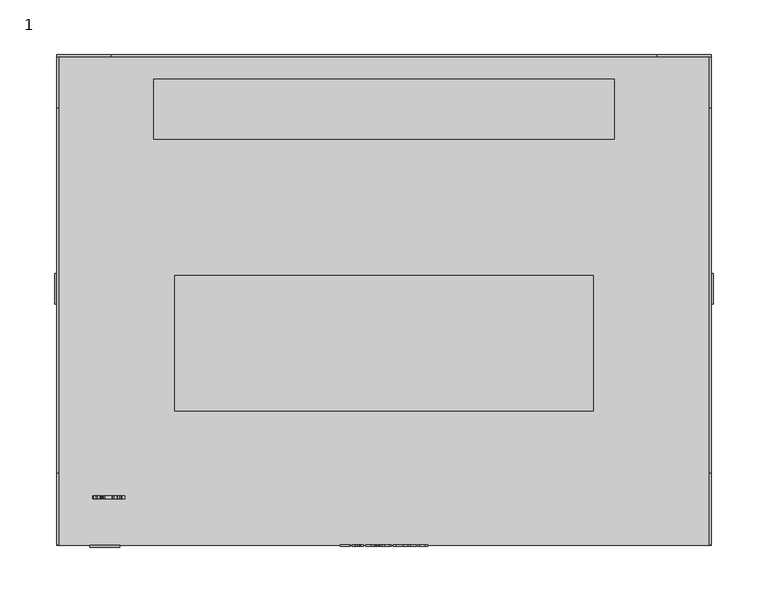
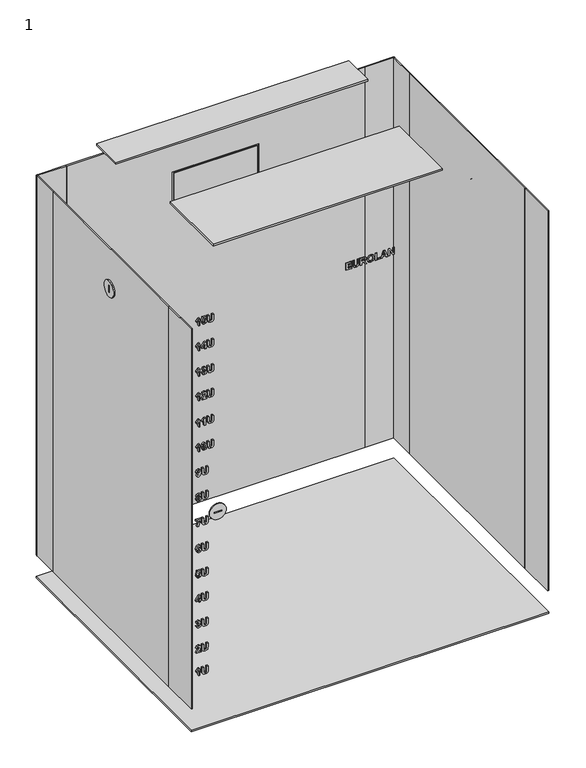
"""IFC4 building model written with IfcOpenShell, lengths in millimetres: proxy geometry, 1 : 15U 450мм металлическая дверь."""

from ifc_helpers import new_model, si_unit, point, frame, frame_2d, origin, origin_with_axes, place, context, project, spatial, polyline, circle_curve, trimmed, segment, composite_curve, outline, extrude, source, transform, mapped, element, save


def proxy_1_1176372e(model_context):
    return source(origin(), model_context, "Body", "SweptSolid", [
        extrude(outline(polyline([(728.0, -40.3245382), (728.0, -30.9964522), (730.1376864, -30.9964522), (730.1376864, -37.9925167), (733.2470483, -37.9925167), (733.2470483, -31.5794576), (735.3847347, -31.5794576), (735.3847347, -37.9925167), (738.1054264, -37.9925167), (738.1054264, -31.1907874), (740.2431128, -31.1907874), (740.2431128, -40.3245382), (728.0, -40.3245382)])), frame((0.0, -226.0, 0.0), z_axis=(0.0, 1.0, 0.0), x_axis=(0.0, 0.0, 1.0)), (0.0, 0.0, 1.0), 1.0),
        extrude(outline(polyline([(740.2431128, -29.053101), (733.7207402, -29.053101), (730.6174512, -28.8071456), (729.2601418, -28.1026808), (728.2095176, -26.6482039), (727.8056649, -23.9487675), (728.1761162, -21.5575346), (729.173602, -20.0954664), (730.7085458, -19.3454543), (733.8209443, -19.1420097), (740.2431128, -19.1420097), (740.2431128, -21.4740312), (733.4960402, -21.4740312), (731.4236383, -21.5924541), (730.3714958, -22.2923642), (729.9433512, -24.0216432), (730.3973059, -25.7979877), (731.5982363, -26.6208755), (733.6387551, -26.7210795), (740.2431128, -26.7210795), (740.2431128, -29.053101)])), frame((0.0, -226.0, 0.0), z_axis=(0.0, 1.0, 0.0), x_axis=(0.0, 0.0, 1.0)), (0.0, 0.0, 1.0), 1.0),
        extrude(outline(polyline([(728.0, -16.8099882), (728.0, -14.4779667), (733.0527132, -13.9435451), (732.9251808, -12.6120459), (732.4560437, -11.8164865), (730.7966039, -10.4242575), (728.0, -8.6509495), (728.0, -5.9272213), (730.3745323, -7.424209), (732.3512849, -8.7238252), (733.3715443, -9.9475291), (734.5071902, -7.6625732), (736.7936644, -6.8988969), (738.7339791, -7.4272455), (739.9121358, -8.8361752), (740.2431128, -11.6601074), (740.2431128, -16.8099882), (728.0, -16.8099882)]), holes=[polyline([(735.1903996, -14.4779667), (738.1054264, -14.4779667), (738.1054264, -12.4495939), (738.0659521, -10.5548264), (737.6150339, -9.5770778), (736.6782779, -9.2309184), (735.817434, -9.4935744), (735.3315962, -10.2223312), (735.1903996, -12.5558709), (735.1903996, -14.4779667)])]), frame((0.0, -226.0, 0.0), z_axis=(0.0, 1.0, 0.0), x_axis=(0.0, 0.0, 1.0)), (0.0, 0.0, 1.0), 1.0),
        extrude(outline(polyline([(734.0456442, -4.9555457), (729.4681411, -3.3735363), (727.8056649, 0.8896905), (729.4757323, 5.1225524), (734.106374, 6.7045618), (738.7628257, 5.1104065), (740.4374479, 0.8593256), (739.9546466, -1.7338337), (738.8539203, -3.2869964), (737.1792981, -4.4059416), (734.0456442, -4.9555457)]), holes=[polyline([(734.1306659, -2.6235242), (737.2612832, -1.6579215), (738.2997616, 0.886654), (737.2734292, 3.4190836), (734.1640672, 4.3725403), (730.9985302, 3.3932735), (729.9433512, 0.886654), (731.0061214, -1.6321114), (734.1306659, -2.6235242)])]), frame((0.0, -226.0, 0.0), z_axis=(0.0, 1.0, 0.0), x_axis=(0.0, 0.0, 1.0)), (0.0, 0.0, 1.0), 1.0),
        extrude(outline(polyline([(728.0, 8.647913), (728.0, 17.1986585), (730.1376864, 17.1986585), (730.1376864, 10.9799345), (740.2431128, 10.9799345), (740.2431128, 8.647913), (728.0, 8.647913)])), frame((0.0, -226.0, 0.0), z_axis=(0.0, 1.0, 0.0), x_axis=(0.0, 0.0, 1.0)), (0.0, 0.0, 1.0), 1.0),
        extrude(outline(polyline([(728.0, 29.2474361), (740.2431128, 24.7352175), (740.2431128, 22.2513717), (728.0, 17.7816638), (728.0, 20.2655096), (730.7206917, 21.2128934), (730.7206917, 25.837462), (728.0, 26.7969917), (728.0, 29.2474361)]), holes=[polyline([(732.8583781, 25.0904864), (732.8583781, 21.959869), (737.3280859, 23.51455), (732.8583781, 25.0904864)])]), frame((0.0, -226.0, 0.0), z_axis=(0.0, 1.0, 0.0), x_axis=(0.0, 0.0, 1.0)), (0.0, 0.0, 1.0), 1.0),
        extrude(outline(polyline([(728.0, 30.4134469), (728.0, 32.7454684), (736.1195644, 32.7454684), (728.0, 37.8042546), (728.0, 40.3245382), (740.2431128, 40.3245382), (740.2431128, 37.9925167), (732.002089, 37.9925167), (740.2431128, 32.8578184), (740.2431128, 30.4134469), (728.0, 30.4134469)])), frame((0.0, -226.0, 0.0), z_axis=(0.0, 1.0, 0.0), x_axis=(0.0, 0.0, 1.0)), (0.0, 0.0, 1.0), 1.0),
        extrude(outline(composite_curve([segment(trimmed(circle_curve(frame_2d((9.997621, 643.4611412)), 14.0), [point((-4.002379, 643.4611412))], [point((23.997621, 643.4611412))], False, "CARTESIAN"), True, "CONTINUOUS"), segment(trimmed(circle_curve(frame_2d((9.997621, 643.4611412)), 14.0), [point((23.997621, 643.4611412))], [point((-4.002379, 643.4611412))], False, "CARTESIAN"), True, "CONTINUOUS")], self_intersect=False), holes=[polyline([(11.0, 649.5), (9.0, 649.5), (9.0, 637.5), (11.0, 637.5), (11.0, 649.5)])]), frame((-302.0, 0.0, 0.0), z_axis=(1.0, 0.0, 0.0), x_axis=(0.0, 1.0, 0.0)), (0.0, 0.0, 1.0), 2.0),
        extrude(outline(composite_curve([segment(trimmed(circle_curve(frame_2d((9.997621, 643.4611412)), 14.0), [point((-4.002379, 643.4611412))], [point((23.997621, 643.4611412))], False, "CARTESIAN"), True, "CONTINUOUS"), segment(trimmed(circle_curve(frame_2d((9.997621, 643.4611412)), 14.0), [point((23.997621, 643.4611412))], [point((-4.002379, 643.4611412))], False, "CARTESIAN"), True, "CONTINUOUS")], self_intersect=False), holes=[polyline([(11.0, 649.5), (9.0, 649.5), (9.0, 637.5), (11.0, 637.5), (11.0, 649.5)])]), frame((300.0, 0.0, 0.0), z_axis=(1.0, 0.0, 0.0), x_axis=(0.0, 1.0, 0.0)), (0.0, 0.0, 1.0), 2.0),
        extrude(outline(composite_curve([segment(trimmed(circle_curve(frame_2d((376.0, -256.0)), 13.7647373), [point((376.0, -242.2352627))], [point((376.0, -269.7647373))], False, "CARTESIAN"), True, "CONTINUOUS"), segment(trimmed(circle_curve(frame_2d((376.0, -256.0)), 13.7647373), [point((376.0, -269.7647373))], [point((376.0, -242.2352627))], False, "CARTESIAN"), True, "CONTINUOUS")], self_intersect=False), holes=[polyline([(377.0, -250.0), (375.0, -250.0), (375.0, -262.0), (377.0, -262.0), (377.0, -250.0)])]), frame((0.0, -227.0, 0.0), z_axis=(0.0, 1.0, 0.0), x_axis=(0.0, 0.0, 1.0)), (0.0, 0.0, 1.0), 2.0),
        extrude(outline(polyline([(300.0, 225.0), (300.0, -225.0), (-300.0, -225.0), (-300.0, 225.0), (300.0, 225.0)])), origin_with_axes(), (0.0, 0.0, 1.0), 2.0),
        extrude(outline(polyline([(211.0, 202.5), (211.0, 147.5), (-211.0, 147.5), (-211.0, 202.5), (211.0, 202.5)])), frame((0.0, 0.0, 748.9795778), z_axis=(0.0, 0.0, 1.0), x_axis=(1.0, 0.0, 0.0)), (0.0, 0.0, 1.0), 3.0204222),
        extrude(outline(polyline([(192.0, 22.0), (192.0, -102.0), (-192.0, -102.0), (-192.0, 22.0), (192.0, 22.0)])), frame((0.0, 0.0, 748.9795778), z_axis=(0.0, 0.0, 1.0), x_axis=(1.0, 0.0, 0.0)), (0.0, 0.0, 1.0), 3.0204222),
        extrude(outline(polyline([(-69.5, 225.0), (69.5, 225.0), (69.5, 223.0), (-69.5, 223.0), (-69.5, 225.0)])), frame((0.0, 0.0, 589.0), z_axis=(0.0, 0.0, 1.0), x_axis=(1.0, 0.0, 0.0)), (0.0, 0.0, 1.0), 49.0),
        extrude(outline(polyline([(714.0, -250.0), (40.0, -250.0), (40.0, 250.0), (714.0, 250.0), (714.0, -250.0)]), holes=[polyline([(641.0, -72.5), (641.0, 72.5), (586.0, 72.5), (586.0, -72.5), (641.0, -72.5)])]), frame((0.0, 223.0, 0.0), z_axis=(0.0, 1.0, 0.0), x_axis=(0.0, 0.0, 1.0)), (0.0, 0.0, 1.0), 2.0),
        extrude(outline(polyline([(-300.0, 225.0), (-250.0, 225.0), (-250.0, 223.0), (-300.0, 223.0), (-300.0, 225.0)])), frame((0.0, 0.0, 40.0), z_axis=(0.0, 0.0, 1.0), x_axis=(1.0, 0.0, 0.0)), (0.0, 0.0, 1.0), 674.0),
        extrude(outline(polyline([(250.0, 225.0), (300.0, 225.0), (300.0, 223.0), (250.0, 223.0), (250.0, 225.0)])), frame((0.0, 0.0, 40.0), z_axis=(0.0, 0.0, 1.0), x_axis=(1.0, 0.0, 0.0)), (0.0, 0.0, 1.0), 674.0),
        extrude(outline(polyline([(-298.0, 175.8155315), (-298.0, -158.7095641), (-300.0, -158.7095641), (-300.0, 175.8155315), (-298.0, 175.8155315)])), frame((0.0, 0.0, 40.0), z_axis=(0.0, 0.0, 1.0), x_axis=(1.0, 0.0, 0.0)), (0.0, 0.0, 1.0), 674.0),
        extrude(outline(polyline([(-298.0, -158.7095641), (-298.0, -225.0), (-300.0, -225.0), (-300.0, -158.7095641), (-298.0, -158.7095641)])), frame((0.0, 0.0, 40.0), z_axis=(0.0, 0.0, 1.0), x_axis=(1.0, 0.0, 0.0)), (0.0, 0.0, 1.0), 674.0),
        extrude(outline(polyline([(-298.0, 225.0), (-298.0, 175.8155315), (-300.0, 175.8155315), (-300.0, 225.0), (-298.0, 225.0)])), frame((0.0, 0.0, 40.0), z_axis=(0.0, 0.0, 1.0), x_axis=(1.0, 0.0, 0.0)), (0.0, 0.0, 1.0), 674.0),
        extrude(outline(polyline([(300.0, 175.8155315), (300.0, -158.7095641), (298.0, -158.7095641), (298.0, 175.8155315), (300.0, 175.8155315)])), frame((0.0, 0.0, 40.0), z_axis=(0.0, 0.0, 1.0), x_axis=(1.0, 0.0, 0.0)), (0.0, 0.0, 1.0), 674.0),
        extrude(outline(polyline([(300.0, 225.0), (300.0, 175.8155315), (298.0, 175.8155315), (298.0, 225.0), (300.0, 225.0)])), frame((0.0, 0.0, 40.0), z_axis=(0.0, 0.0, 1.0), x_axis=(1.0, 0.0, 0.0)), (0.0, 0.0, 1.0), 674.0),
        extrude(outline(polyline([(300.0, -158.7095641), (300.0, -225.0), (298.0, -225.0), (298.0, -158.7095641), (300.0, -158.7095641)])), frame((0.0, 0.0, 40.0), z_axis=(0.0, 0.0, 1.0), x_axis=(1.0, 0.0, 0.0)), (0.0, 0.0, 1.0), 674.0),
        extrude(outline(polyline([(680.748317, -260.6030776), (692.9914298, -260.6030776), (692.9914298, -262.4614073), (691.0253049, -263.9037383), (689.8820678, -265.850126), (687.5500463, -265.850126), (689.4994705, -262.9350991), (680.748317, -262.9350991), (680.748317, -260.6030776)])), frame((0.0, -182.6777479, 0.0), z_axis=(0.0, 1.0, 0.0), x_axis=(0.0, 0.0, 1.0)), (0.0, 0.0, 1.0), 3.0),
        extrude(outline(polyline([(684.1947289, -257.1050454), (681.5408399, -255.8676772), (680.5539818, -253.194051), (682.1268817, -249.984485), (684.7473694, -249.1373053), (687.6122943, -250.1545282), (688.716057, -252.6323011), (688.2393287, -254.1353618), (690.4650731, -253.6647064), (690.4650731, -249.7203107), (692.7970946, -249.7203107), (692.7970946, -255.5503644), (685.9073072, -256.9107103), (685.606695, -254.8884104), (686.5783707, -253.1819051), (686.1077153, -251.9445369), (684.6957492, -251.4693268), (683.1911702, -251.9809748), (682.6916682, -253.2304889), (683.1623236, -254.3722077), (684.4406843, -254.967359), (684.1947289, -257.1050454)])), frame((0.0, -182.6777479, 0.0), z_axis=(0.0, 1.0, 0.0), x_axis=(0.0, 0.0, 1.0)), (0.0, 0.0, 1.0), 3.0),
        extrude(outline(polyline([(692.9914298, -247.3882892), (686.4690572, -247.3882892), (683.3657682, -247.1423338), (682.0084588, -246.437869), (680.9578345, -244.9833921), (680.5539818, -242.2839557), (680.9244332, -239.8927228), (681.9219189, -238.4306546), (683.4568627, -237.6806425), (686.5692612, -237.4771979), (692.9914298, -237.4771979), (692.9914298, -239.8092194), (686.2443572, -239.8092194), (684.1719553, -239.9276424), (683.1198128, -240.6275524), (682.6916682, -242.3568314), (683.1456229, -244.1331759), (684.3465532, -244.9560637), (686.387072, -245.0562677), (692.9914298, -245.0562677), (692.9914298, -247.3882892)])), frame((0.0, -182.6777479, 0.0), z_axis=(0.0, 1.0, 0.0), x_axis=(0.0, 0.0, 1.0)), (0.0, 0.0, 1.0), 3.0),
        extrude(outline(polyline([(636.0351924, -260.6030776), (648.2783052, -260.6030776), (648.2783052, -262.4614073), (646.3121803, -263.9037383), (645.1689432, -265.850126), (642.8369217, -265.850126), (644.7863459, -262.9350991), (636.0351924, -262.9350991), (636.0351924, -260.6030776)])), frame((0.0, -182.6777479, 0.0), z_axis=(0.0, 1.0, 0.0), x_axis=(0.0, 0.0, 1.0)), (0.0, 0.0, 1.0), 3.0),
        extrude(outline(polyline([(636.0351924, -252.8296727), (636.0351924, -250.4976512), (638.561549, -250.4976512), (638.561549, -248.9429702), (640.5049002, -248.9429702), (640.5049002, -250.4976512), (648.08397, -250.4976512), (648.08397, -252.5199511), (640.4957907, -257.4937157), (638.561549, -257.4937157), (638.561549, -252.8296727), (636.0351924, -252.8296727)]), holes=[polyline([(640.5049002, -252.8296727), (640.5049002, -255.4349779), (644.4826973, -252.8296727), (640.5049002, -252.8296727)])]), frame((0.0, -182.6777479, 0.0), z_axis=(0.0, 1.0, 0.0), x_axis=(0.0, 0.0, 1.0)), (0.0, 0.0, 1.0), 3.0),
        extrude(outline(polyline([(648.2783052, -247.3882892), (641.7559326, -247.3882892), (638.6526436, -247.1423338), (637.2953342, -246.437869), (636.2447099, -244.9833921), (635.8408572, -242.2839557), (636.2113086, -239.8927228), (637.2087943, -238.4306546), (638.7437381, -237.6806425), (641.8561366, -237.4771979), (648.2783052, -237.4771979), (648.2783052, -239.8092194), (641.5312326, -239.8092194), (639.4588307, -239.9276424), (638.4066882, -240.6275524), (637.9785436, -242.3568314), (638.4324983, -244.1331759), (639.6334286, -244.9560637), (641.6739474, -245.0562677), (648.2783052, -245.0562677), (648.2783052, -247.3882892)])), frame((0.0, -182.6777479, 0.0), z_axis=(0.0, 1.0, 0.0), x_axis=(0.0, 0.0, 1.0)), (0.0, 0.0, 1.0), 3.0),
        extrude(outline(polyline([(591.485825, -260.6030776), (603.7289378, -260.6030776), (603.7289378, -262.4614073), (601.762813, -263.9037383), (600.6195759, -265.850126), (598.2875544, -265.850126), (600.2369786, -262.9350991), (591.485825, -262.9350991), (591.485825, -260.6030776)])), frame((0.0, -182.6777479, 0.0), z_axis=(0.0, 1.0, 0.0), x_axis=(0.0, 0.0, 1.0)), (0.0, 0.0, 1.0), 3.0),
        extrude(outline(polyline([(594.9079451, -257.1050454), (592.2920122, -255.8919691), (591.2914899, -253.2578173), (592.4165081, -250.4566586), (595.1356816, -249.3316405), (597.0137484, -249.9662661), (598.0142706, -251.6606255), (600.5861745, -249.9146458), (602.6266933, -250.7284242), (603.7289378, -253.3458754), (603.3311581, -255.0690813), (602.2395413, -256.2684934), (600.3857664, -256.9107103), (600.0365705, -254.5786888), (601.19499, -254.1611719), (601.5912515, -253.3306929), (601.2496468, -252.5427247), (600.3341462, -252.2466673), (599.253157, -252.6429288), (598.8705597, -253.7922388), (596.9484639, -253.9956834), (597.1215436, -253.0695551), (596.6387423, -252.0720693), (595.3300167, -251.6636619), (593.9438607, -252.1100254), (593.4291763, -253.21227), (593.8785763, -254.2477118), (595.1781924, -254.7730239), (594.9079451, -257.1050454)])), frame((0.0, -182.6777479, 0.0), z_axis=(0.0, 1.0, 0.0), x_axis=(0.0, 0.0, 1.0)), (0.0, 0.0, 1.0), 3.0),
        extrude(outline(polyline([(603.7289378, -247.3882892), (597.2065653, -247.3882892), (594.1032762, -247.1423338), (592.7459669, -246.437869), (591.6953426, -244.9833921), (591.2914899, -242.2839557), (591.6619413, -239.8927228), (592.659427, -238.4306546), (594.1943708, -237.6806425), (597.3067693, -237.4771979), (603.7289378, -237.4771979), (603.7289378, -239.8092194), (596.9818653, -239.8092194), (594.9094634, -239.9276424), (593.8573209, -240.6275524), (593.4291763, -242.3568314), (593.883131, -244.1331759), (595.0840613, -244.9560637), (597.1245801, -245.0562677), (603.7289378, -245.0562677), (603.7289378, -247.3882892)])), frame((0.0, -182.6777479, 0.0), z_axis=(0.0, 1.0, 0.0), x_axis=(0.0, 0.0, 1.0)), (0.0, 0.0, 1.0), 3.0),
        extrude(outline(polyline([(547.6333267, -260.6030776), (559.8764395, -260.6030776), (559.8764395, -262.4614073), (557.9103146, -263.9037383), (556.7670775, -265.850126), (554.435056, -265.850126), (556.3844802, -262.9350991), (547.6333267, -262.9350991), (547.6333267, -260.6030776)])), frame((0.0, -182.6777479, 0.0), z_axis=(0.0, 1.0, 0.0), x_axis=(0.0, 0.0, 1.0)), (0.0, 0.0, 1.0), 3.0),
        extrude(outline(polyline([(549.9653481, -249.3316405), (550.6030103, -253.2395983), (551.9299548, -251.9080991), (553.4603439, -250.4581769), (554.9937695, -249.6018877), (556.5363045, -249.3316405), (558.918428, -250.3184985), (559.8764395, -253.0331173), (559.0216686, -255.6596779), (556.202291, -256.9107103), (555.989737, -254.5786888), (557.3333822, -254.1292888), (557.7387531, -253.0847375), (557.3273092, -252.0417045), (556.1476343, -251.6636619), (554.7447776, -252.1130619), (552.7892804, -253.9167348), (549.9213191, -256.3611063), (547.6333267, -257.1050454), (547.6333267, -249.3316405), (549.9653481, -249.3316405)])), frame((0.0, -182.6777479, 0.0), z_axis=(0.0, 1.0, 0.0), x_axis=(0.0, 0.0, 1.0)), (0.0, 0.0, 1.0), 3.0),
        extrude(outline(polyline([(559.8764395, -247.3882892), (553.3540669, -247.3882892), (550.2507779, -247.1423338), (548.8934685, -246.437869), (547.8428442, -244.9833921), (547.4389915, -242.2839557), (547.8094429, -239.8927228), (548.8069286, -238.4306546), (550.3418725, -237.6806425), (553.4542709, -237.4771979), (559.8764395, -237.4771979), (559.8764395, -239.8092194), (553.1293669, -239.8092194), (551.056965, -239.9276424), (550.0048225, -240.6275524), (549.5766779, -242.3568314), (550.0306326, -244.1331759), (551.2315629, -244.9560637), (553.2720817, -245.0562677), (559.8764395, -245.0562677), (559.8764395, -247.3882892)])), frame((0.0, -182.6777479, 0.0), z_axis=(0.0, 1.0, 0.0), x_axis=(0.0, 0.0, 1.0)), (0.0, 0.0, 1.0), 3.0),
        extrude(outline(polyline([(501.1786301, -260.6030776), (513.4217429, -260.6030776), (513.4217429, -262.4614073), (511.455618, -263.9037383), (510.3123809, -265.850126), (507.9803594, -265.850126), (509.9297836, -262.9350991), (501.1786301, -262.9350991), (501.1786301, -260.6030776)])), frame((0.0, -182.6777479, 0.0), z_axis=(0.0, 1.0, 0.0), x_axis=(0.0, 0.0, 1.0)), (0.0, 0.0, 1.0), 3.0),
        extrude(outline(polyline([(501.1786301, -251.2749917), (513.4217429, -251.2749917), (513.4217429, -253.1333213), (511.455618, -254.5756523), (510.3123809, -256.52204), (507.9803594, -256.52204), (509.9297836, -253.6070132), (501.1786301, -253.6070132), (501.1786301, -251.2749917)])), frame((0.0, -182.6777479, 0.0), z_axis=(0.0, 1.0, 0.0), x_axis=(0.0, 0.0, 1.0)), (0.0, 0.0, 1.0), 3.0),
        extrude(outline(polyline([(513.4217429, -247.3882892), (506.8993703, -247.3882892), (503.7960813, -247.1423338), (502.4387719, -246.437869), (501.3881476, -244.9833921), (500.9842949, -242.2839557), (501.3547463, -239.8927228), (502.352232, -238.4306546), (503.8871758, -237.6806425), (506.9995743, -237.4771979), (513.4217429, -237.4771979), (513.4217429, -239.8092194), (506.6746703, -239.8092194), (504.6022684, -239.9276424), (503.5501259, -240.6275524), (503.1219813, -242.3568314), (503.575936, -244.1331759), (504.7768663, -244.9560637), (506.8173851, -245.0562677), (513.4217429, -245.0562677), (513.4217429, -247.3882892)])), frame((0.0, -182.6777479, 0.0), z_axis=(0.0, 1.0, 0.0), x_axis=(0.0, 0.0, 1.0)), (0.0, 0.0, 1.0), 3.0),
        extrude(outline(polyline([(457.3261317, -260.6030776), (469.5692445, -260.6030776), (469.5692445, -262.4614073), (467.6031196, -263.9037383), (466.4598825, -265.850126), (464.127861, -265.850126), (466.0772852, -262.9350991), (457.3261317, -262.9350991), (457.3261317, -260.6030776)])), frame((0.0, -182.6777479, 0.0), z_axis=(0.0, 1.0, 0.0), x_axis=(0.0, 0.0, 1.0)), (0.0, 0.0, 1.0), 3.0),
        extrude(outline(polyline([(469.5692445, -253.2183429), (468.3242851, -255.9299252), (463.3717759, -257.1050454), (458.4982154, -256.034684), (457.1317966, -253.2183429), (458.3767559, -250.5067607), (463.347484, -249.3316405), (468.3060662, -250.5006877), (469.5692445, -253.2183429)]), holes=[polyline([(467.4315581, -253.2183429), (467.174975, -252.4455572), (466.1531974, -251.8853254), (463.347484, -251.6636619), (460.4476396, -251.9126538), (459.526066, -252.4410024), (459.2694829, -253.2183429), (459.5230295, -253.9911287), (460.5402524, -254.5513604), (463.347484, -254.7730239), (466.2534014, -254.524032), (467.174975, -253.9956834), (467.4315581, -253.2183429)])]), frame((0.0, -182.6777479, 0.0), z_axis=(0.0, 1.0, 0.0), x_axis=(0.0, 0.0, 1.0)), (0.0, 0.0, 1.0), 3.0),
        extrude(outline(polyline([(469.5692445, -247.3882892), (463.0468719, -247.3882892), (459.9435829, -247.1423338), (458.5862735, -246.437869), (457.5356492, -244.9833921), (457.1317966, -242.2839557), (457.5022479, -239.8927228), (458.4997336, -238.4306546), (460.0346775, -237.6806425), (463.1470759, -237.4771979), (469.5692445, -237.4771979), (469.5692445, -239.8092194), (462.8221719, -239.8092194), (460.74977, -239.9276424), (459.6976275, -240.6275524), (459.2694829, -242.3568314), (459.7234376, -244.1331759), (460.924368, -244.9560637), (462.9648868, -245.0562677), (469.5692445, -245.0562677), (469.5692445, -247.3882892)])), frame((0.0, -182.6777479, 0.0), z_axis=(0.0, 1.0, 0.0), x_axis=(0.0, 0.0, 1.0)), (0.0, 0.0, 1.0), 3.0),
        extrude(outline(polyline([(416.2414631, -266.2387962), (413.8062011, -265.1547706), (412.9924228, -262.9381356), (414.4696734, -259.8469925), (419.2870589, -258.6597264), (423.9981674, -259.7953723), (425.4298707, -262.7012897), (424.3169985, -265.3809888), (421.3852709, -266.4331314), (418.550711, -265.4083172), (417.4621306, -262.971537), (418.476317, -260.8065222), (415.7753625, -261.4290019), (415.1301091, -262.6071586), (415.4641226, -263.4922944), (416.490455, -263.9067747), (416.2414631, -266.2387962)]), holes=[polyline([(421.3306142, -260.9917479), (420.0385892, -261.4365931), (419.599817, -262.5312464), (420.0568082, -263.6517099), (421.4885115, -264.1011099), (422.8701127, -263.6881477), (423.2921843, -262.6496694), (422.7774999, -261.4927681), (421.3306142, -260.9917479)])]), frame((0.0, -182.6777479, 0.0), z_axis=(0.0, 1.0, 0.0), x_axis=(0.0, 0.0, 1.0)), (0.0, 0.0, 1.0), 3.0),
        extrude(outline(polyline([(425.4298707, -256.7163752), (418.9074981, -256.7163752), (415.8042091, -256.4704198), (414.4468997, -255.7659549), (413.3962754, -254.311478), (412.9924228, -251.6120417), (413.3628741, -249.2208087), (414.3603599, -247.7587405), (415.8953037, -247.0087284), (419.0077021, -246.8052838), (425.4298707, -246.8052838), (425.4298707, -249.1373053), (418.6827981, -249.1373053), (416.6103962, -249.2557283), (415.5582537, -249.9556384), (415.1301091, -251.6849173), (415.5840638, -253.4612618), (416.7849942, -254.2841496), (418.825513, -254.3843537), (425.4298707, -254.3843537), (425.4298707, -256.7163752)])), frame((0.0, -182.6777479, 0.0), z_axis=(0.0, 1.0, 0.0), x_axis=(0.0, 0.0, 1.0)), (0.0, 0.0, 1.0), 3.0),
        extrude(outline(polyline([(376.4962498, -264.3865396), (375.2254803, -265.9397023), (373.4172527, -266.4331314), (370.6024299, -265.1669166), (369.7339948, -262.4826627), (370.784619, -259.7042777), (373.5174567, -258.6597264), (375.3120201, -259.1865568), (376.4962498, -260.7245371), (377.508918, -259.3444541), (379.0226064, -258.8540615), (381.280234, -259.8227007), (382.1714427, -262.5464289), (381.280234, -265.2777483), (379.0226064, -266.2387962), (377.5499105, -265.7985057), (376.4962498, -264.3865396)]), holes=[polyline([(378.8798915, -263.9067747), (380.000355, -263.5332869), (380.4224266, -262.5312464), (380.0033915, -261.5550161), (378.889001, -261.186083), (377.7320997, -261.5595708), (377.3130646, -262.5555383), (377.727545, -263.5378417), (378.8798915, -263.9067747)]), polyline([(373.6146243, -264.1011099), (374.94916, -263.7169943), (375.5640485, -262.5494654), (375.0220357, -261.4320384), (373.5872959, -260.9917479), (372.0250237, -261.4244472), (371.4830109, -262.5191005), (372.0462791, -263.6486734), (373.6146243, -264.1011099)])]), frame((0.0, -182.6777479, 0.0), z_axis=(0.0, 1.0, 0.0), x_axis=(0.0, 0.0, 1.0)), (0.0, 0.0, 1.0), 3.0),
        extrude(outline(polyline([(382.1714427, -256.7163752), (375.6490701, -256.7163752), (372.5457811, -256.4704198), (371.1884717, -255.7659549), (370.1378475, -254.311478), (369.7339948, -251.6120417), (370.1044461, -249.2208087), (371.1019319, -247.7587405), (372.6368757, -247.0087284), (375.7492742, -246.8052838), (382.1714427, -246.8052838), (382.1714427, -249.1373053), (375.4243701, -249.1373053), (373.3519682, -249.2557283), (372.2998257, -249.9556384), (371.8716811, -251.6849173), (372.3256358, -253.4612618), (373.5265662, -254.2841496), (375.567085, -254.3843537), (382.1714427, -254.3843537), (382.1714427, -256.7163752)])), frame((0.0, -182.6777479, 0.0), z_axis=(0.0, 1.0, 0.0), x_axis=(0.0, 0.0, 1.0)), (0.0, 0.0, 1.0), 3.0),
        extrude(outline(polyline([(334.6450861, -266.4331314), (334.6450861, -261.3257614), (330.0129262, -264.008497), (324.9283299, -265.0727855), (324.9283299, -262.740764), (328.5812229, -262.2154519), (332.440597, -260.6622891), (335.2280915, -258.6597264), (336.9771076, -258.6597264), (336.9771076, -266.4331314), (334.6450861, -266.4331314)])), frame((0.0, -182.6777479, 0.0), z_axis=(0.0, 1.0, 0.0), x_axis=(0.0, 0.0, 1.0)), (0.0, 0.0, 1.0), 3.0),
        extrude(outline(polyline([(337.1714427, -256.7163752), (330.6490701, -256.7163752), (327.5457811, -256.4704198), (326.1884717, -255.7659549), (325.1378475, -254.311478), (324.7339948, -251.6120417), (325.1044461, -249.2208087), (326.1019319, -247.7587405), (327.6368757, -247.0087284), (330.7492742, -246.8052838), (337.1714427, -246.8052838), (337.1714427, -249.1373053), (330.4243701, -249.1373053), (328.3519682, -249.2557283), (327.2998257, -249.9556384), (326.8716811, -251.6849173), (327.3256358, -253.4612618), (328.5265662, -254.2841496), (330.567085, -254.3843537), (337.1714427, -254.3843537), (337.1714427, -256.7163752)])), frame((0.0, -182.6777479, 0.0), z_axis=(0.0, 1.0, 0.0), x_axis=(0.0, 0.0, 1.0)), (0.0, 0.0, 1.0), 3.0),
        extrude(outline(polyline([(287.6111434, -258.8540615), (290.0281866, -259.9654155), (290.8601838, -262.1668681), (289.381415, -265.2473834), (284.5534017, -266.4331314), (279.8559574, -265.2974855), (278.4227359, -262.4006775), (279.5325716, -259.7073142), (282.4764451, -258.6597264), (285.2973409, -259.6845405), (286.390476, -262.1486492), (285.3671801, -264.2802626), (288.0772441, -263.6638558), (288.7224974, -262.4674802), (288.3900022, -261.5990451), (287.3621516, -261.186083), (287.6111434, -258.8540615)]), holes=[polyline([(282.5280654, -264.1011099), (283.8155356, -263.6532281), (284.2527896, -262.5585748), (283.7957984, -261.4396296), (282.3549856, -260.9917479), (280.9794573, -261.4077465), (280.5604222, -262.4462248), (281.0720702, -263.5970531), (282.5280654, -264.1011099)])]), frame((0.0, -182.6777479, 0.0), z_axis=(0.0, 1.0, 0.0), x_axis=(0.0, 0.0, 1.0)), (0.0, 0.0, 1.0), 3.0),
        extrude(outline(polyline([(290.8601838, -256.7163752), (284.3378112, -256.7163752), (281.2345222, -256.4704198), (279.8772128, -255.7659549), (278.8265886, -254.311478), (278.4227359, -251.6120417), (278.7931872, -249.2208087), (279.790673, -247.7587405), (281.3256168, -247.0087284), (284.4380153, -246.8052838), (290.8601838, -246.8052838), (290.8601838, -249.1373053), (284.1131112, -249.1373053), (282.0407093, -249.2557283), (280.9885668, -249.9556384), (280.5604222, -251.6849173), (281.0143769, -253.4612618), (282.2153073, -254.2841496), (284.2558261, -254.3843537), (290.8601838, -254.3843537), (290.8601838, -256.7163752)])), frame((0.0, -182.6777479, 0.0), z_axis=(0.0, 1.0, 0.0), x_axis=(0.0, 0.0, 1.0)), (0.0, 0.0, 1.0), 3.0),
        extrude(outline(polyline([(237.3503584, -266.4331314), (234.6964693, -265.1957632), (233.7096113, -262.522137), (235.2825112, -259.312571), (237.9029989, -258.4653913), (240.7679237, -259.4826142), (241.8716865, -261.960387), (241.3949581, -263.4634477), (243.6207026, -262.9927924), (243.6207026, -259.0483966), (245.9527241, -259.0483966), (245.9527241, -264.8784504), (239.0629366, -266.2387962), (238.7623245, -264.2164963), (239.7340001, -262.509991), (239.2633447, -261.2726229), (237.8513786, -260.7974128), (236.3467996, -261.3090607), (235.8472976, -262.5585748), (236.317953, -263.7002937), (237.5963138, -264.295445), (237.3503584, -266.4331314)])), frame((0.0, -182.6777479, 0.0), z_axis=(0.0, 1.0, 0.0), x_axis=(0.0, 0.0, 1.0)), (0.0, 0.0, 1.0), 3.0),
        extrude(outline(polyline([(246.1470592, -256.7163752), (239.6246866, -256.7163752), (236.5213976, -256.4704198), (235.1640882, -255.7659549), (234.113464, -254.311478), (233.7096113, -251.6120417), (234.0800626, -249.2208087), (235.0775484, -247.7587405), (236.6124922, -247.0087284), (239.7248907, -246.8052838), (246.1470592, -246.8052838), (246.1470592, -249.1373053), (239.3999866, -249.1373053), (237.3275847, -249.2557283), (236.2754422, -249.9556384), (235.8472976, -251.6849173), (236.3012523, -253.4612618), (237.5021827, -254.2841496), (239.5427015, -254.3843537), (246.1470592, -254.3843537), (246.1470592, -256.7163752)])), frame((0.0, -182.6777479, 0.0), z_axis=(0.0, 1.0, 0.0), x_axis=(0.0, 0.0, 1.0)), (0.0, 0.0, 1.0), 3.0),
        extrude(outline(polyline([(189.9283299, -262.1577586), (189.9283299, -259.8257371), (192.4546865, -259.8257371), (192.4546865, -258.2710562), (194.3980377, -258.2710562), (194.3980377, -259.8257371), (201.9771076, -259.8257371), (201.9771076, -261.848037), (194.3889283, -266.8218016), (192.4546865, -266.8218016), (192.4546865, -262.1577586), (189.9283299, -262.1577586)]), holes=[polyline([(194.3980377, -262.1577586), (194.3980377, -264.7630639), (198.3758348, -262.1577586), (194.3980377, -262.1577586)])]), frame((0.0, -182.6777479, 0.0), z_axis=(0.0, 1.0, 0.0), x_axis=(0.0, 0.0, 1.0)), (0.0, 0.0, 1.0), 3.0),
        extrude(outline(polyline([(202.1714427, -256.7163752), (195.6490701, -256.7163752), (192.5457811, -256.4704198), (191.1884717, -255.7659549), (190.1378475, -254.311478), (189.7339948, -251.6120417), (190.1044461, -249.2208087), (191.1019319, -247.7587405), (192.6368757, -247.0087284), (195.7492742, -246.8052838), (202.1714427, -246.8052838), (202.1714427, -249.1373053), (195.4243701, -249.1373053), (193.3519682, -249.2557283), (192.2998257, -249.9556384), (191.8716811, -251.6849173), (192.3256358, -253.4612618), (193.5265662, -254.2841496), (195.567085, -254.3843537), (202.1714427, -254.3843537), (202.1714427, -256.7163752)])), frame((0.0, -182.6777479, 0.0), z_axis=(0.0, 1.0, 0.0), x_axis=(0.0, 0.0, 1.0)), (0.0, 0.0, 1.0), 3.0),
        extrude(outline(polyline([(148.35045, -266.4331314), (145.734517, -265.2200551), (144.7339948, -262.5859032), (145.859013, -259.7847446), (148.5781864, -258.6597264), (150.4562532, -259.294352), (151.4567755, -260.9887114), (154.0286794, -259.2427318), (156.0691982, -260.0565101), (157.1714427, -262.6739613), (156.773663, -264.3971673), (155.6820462, -265.5965794), (153.8282713, -266.2387962), (153.4790753, -263.9067747), (154.6374949, -263.4892579), (155.0337563, -262.6587789), (154.6921516, -261.8708107), (153.776651, -261.5747533), (152.6956619, -261.9710147), (152.3130646, -263.1203248), (150.3909688, -263.3237694), (150.5640485, -262.397641), (150.0812472, -261.4001553), (148.7725216, -260.9917479), (147.3863656, -261.4381114), (146.8716811, -262.5403559), (147.3210811, -263.5757977), (148.6206973, -264.1011099), (148.35045, -266.4331314)])), frame((0.0, -182.6777479, 0.0), z_axis=(0.0, 1.0, 0.0), x_axis=(0.0, 0.0, 1.0)), (0.0, 0.0, 1.0), 3.0),
        extrude(outline(polyline([(157.1714427, -256.7163752), (150.6490701, -256.7163752), (147.5457811, -256.4704198), (146.1884717, -255.7659549), (145.1378475, -254.311478), (144.7339948, -251.6120417), (145.1044461, -249.2208087), (146.1019319, -247.7587405), (147.6368757, -247.0087284), (150.7492742, -246.8052838), (157.1714427, -246.8052838), (157.1714427, -249.1373053), (150.4243701, -249.1373053), (148.3519682, -249.2557283), (147.2998257, -249.9556384), (146.8716811, -251.6849173), (147.3256358, -253.4612618), (148.5265662, -254.2841496), (150.567085, -254.3843537), (157.1714427, -254.3843537), (157.1714427, -256.7163752)])), frame((0.0, -182.6777479, 0.0), z_axis=(0.0, 1.0, 0.0), x_axis=(0.0, 0.0, 1.0)), (0.0, 0.0, 1.0), 3.0),
        extrude(outline(polyline([(103.3014708, -258.8246798), (103.9391329, -262.7326376), (105.2660774, -261.4011384), (106.7964665, -259.9512162), (108.3298921, -259.094927), (109.8724272, -258.8246798), (112.2545507, -259.8115378), (113.2125621, -262.5261566), (112.3577912, -265.1527172), (109.5384137, -266.4037496), (109.3258596, -264.0717281), (110.6695048, -263.6223281), (111.0748758, -262.5777768), (110.6634319, -261.5347438), (109.4837569, -261.1567012), (108.0809003, -261.6061012), (106.1254031, -263.4097741), (103.2574418, -265.8541456), (100.9694493, -266.5980847), (100.9694493, -258.8246798), (103.3014708, -258.8246798)])), frame((0.0, -182.6777479, 0.0), z_axis=(0.0, 1.0, 0.0), x_axis=(0.0, 0.0, 1.0)), (0.0, 0.0, 1.0), 3.0),
        extrude(outline(polyline([(113.2125621, -256.8813285), (106.6901895, -256.8813285), (103.5869005, -256.6353731), (102.2295911, -255.9309083), (101.1789669, -254.4764314), (100.7751142, -251.776995), (101.1455655, -249.3857621), (102.1430513, -247.9236939), (103.6779951, -247.1736818), (106.7903936, -246.9702372), (113.2125621, -246.9702372), (113.2125621, -249.3022587), (106.4654895, -249.3022587), (104.3930876, -249.4206817), (103.3409451, -250.1205917), (102.9128006, -251.8498707), (103.3667553, -253.6262152), (104.5676856, -254.449103), (106.6082044, -254.549307), (113.2125621, -254.549307), (113.2125621, -256.8813285)])), frame((0.0, -182.6777479, 0.0), z_axis=(0.0, 1.0, 0.0), x_axis=(0.0, 0.0, 1.0)), (0.0, 0.0, 1.0), 3.0),
        extrude(outline(polyline([(59.9283299, -260.6030776), (72.1714427, -260.6030776), (72.1714427, -262.4614073), (70.2053178, -263.9037383), (69.0620807, -265.850126), (66.7300592, -265.850126), (68.6794834, -262.9350991), (59.9283299, -262.9350991), (59.9283299, -260.6030776)])), frame((0.0, -182.6777479, 0.0), z_axis=(0.0, 1.0, 0.0), x_axis=(0.0, 0.0, 1.0)), (0.0, 0.0, 1.0), 3.0),
        extrude(outline(polyline([(72.1714427, -256.7163752), (65.6490701, -256.7163752), (62.5457811, -256.4704198), (61.1884717, -255.7659549), (60.1378475, -254.311478), (59.7339948, -251.6120417), (60.1044461, -249.2208087), (61.1019319, -247.7587405), (62.6368757, -247.0087284), (65.7492742, -246.8052838), (72.1714427, -246.8052838), (72.1714427, -249.1373053), (65.4243701, -249.1373053), (63.3519682, -249.2557283), (62.2998257, -249.9556384), (61.8716811, -251.6849173), (62.3256358, -253.4612618), (63.5265662, -254.2841496), (65.567085, -254.3843537), (72.1714427, -254.3843537), (72.1714427, -256.7163752)])), frame((0.0, -182.6777479, 0.0), z_axis=(0.0, 1.0, 0.0), x_axis=(0.0, 0.0, 1.0)), (0.0, 0.0, 1.0), 3.0),
    ])


if __name__ == "__main__":
    model = new_model("IFC4")
    model_context = context("Model", 3, world=origin())
    ifc_project = project(units=[si_unit("LENGTHUNIT", "METRE", prefix="MILLI")], contexts=[model_context])
    site = spatial("IfcSite", under=ifc_project)
    building = spatial("IfcBuilding", under=site)
    placement = place(None, origin())
    proxy_1_shape = proxy_1_1176372e(model_context)
    element("IfcBuildingElementProxy", 1, Name="1 : 15U 450мм металлическая дверь", ObjectType="1 : 15U 450мм металлическая дверь", at=placement, inside=building, context=model_context, shape_type="MappedRepresentation", body=[
        mapped(proxy_1_shape, transform((0.0, 0.0, 0.0), x_axis=(1.0, 0.0, 0.0), y_axis=(0.0, 1.0, 0.0), z_axis=(0.0, 0.0, 1.0))),
    ])
    save(model, "model.ifc")
